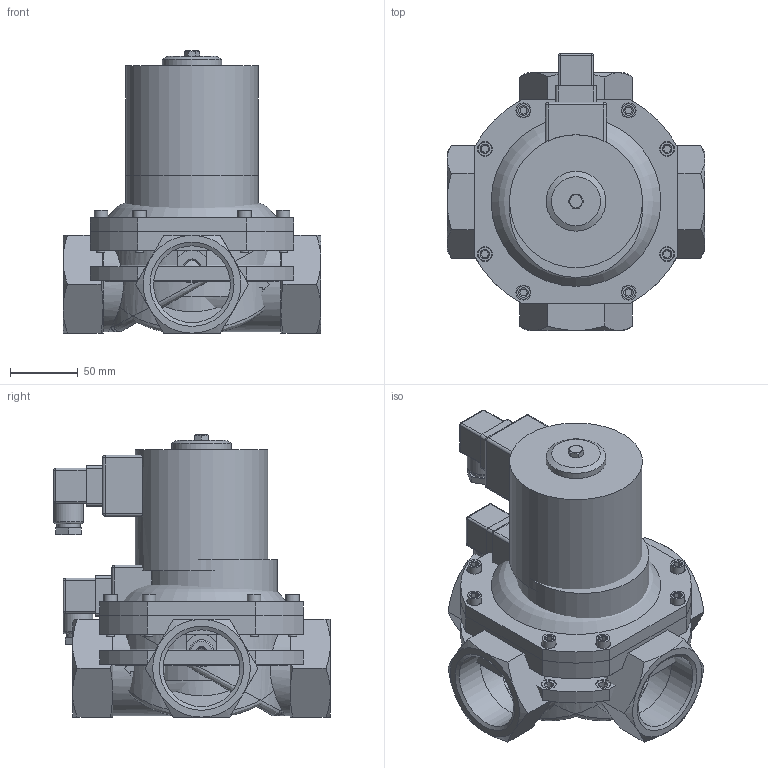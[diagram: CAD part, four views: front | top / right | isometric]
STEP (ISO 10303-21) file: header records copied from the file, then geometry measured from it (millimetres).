
FILE_DESCRIPTION( ( 'Unknown' ), '1' );
FILE_NAME( 'D:/Wyroby/Widoki gabarytowe/Zawory ZEF/ZEF_50/ZEF_50.stp', 'Unknown', ( 'Unknown' ), ( 'Unknown' ), 'XStep 1.0', 'Unknown', ' ' );
FILE_SCHEMA( ( 'CONFIG_CONTROL_DESIGN' ) );
Length unit declared in the file: millimetre
Products named in the file (45): Assem1; Wa_044_01_05; Wb_126_01_01; Wa_157_01_00; Wa_053_01_04; Wa_053_01_05; Wa_031_01_05_001got; Wa_044_01_05bez_ko³ka; Ko³ek6x45; Wa_031_01_04_002got; Wa_031_01_04_001; Wb_126_01_01_002; Wb_126_01_01_001; Wa_044_01_04_002; Wa_126_01_03_003; Wa_086_01_00_002; Wa_065_01_02_004; Wa_044_01_04_003; Wa_044_01_02_004; Wa_014_01_00_003彡i從i黎y27,5; Oring12x2彡i從i黎y1,6; Wa_031_01_00_007; Wa_031_01_00_008; Wa_126_01_03_002zaci從i黎a; Wa_157_01_01; Wa_157_01_02; Wa_031_01_00_005; Œ-006m6x12szeœc.; Wa_031_01_00_012; Wa_031_01_00_010; Œ-028ImbusM6x25; Wa_125_01_00_002; Wa_031_01_00_003; Wb_125_01_00_001zciœnieta22,25; Cewka_40-65
Bounding box: 190 x 204 x 208 mm (x, y, z)
Volume: 3838605.2 mm3; surface area: 1213199.2 mm2
Topology: 142 solids, 142 shells, 2280 faces, 4899 edges, 3130 vertices
Faces by surface type: plane 1088, cylinder 679, cone 379, torus 91, sphere 22, bspline 21
Full cylindrical faces by diameter (mm): 2 x10, 2.5 x30, 3 x3, 3.5 x3, 4 x7, 4.2 x9, 4.917 x29, 5 x4, 6 x37, 6.2 x13, 6.5 x3, 6.6 x24, 8 x9, 10 x39, 10.917 x4, 11 x24, 11.445 x6, 12 x17, 12.2 x8, 13 x6, 13.8 x6, 14 x4, 16 x4, 17 x2, 18 x12, 18.5 x4, 18.7 x4, 22 x2, 24 x4, 24.5 x5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
Entity records: 22636 total; most frequent: CARTESIAN_POINT 6918, DIRECTION 2945, ORIENTED_EDGE 2264, AXIS2_PLACEMENT_3D 1274, EDGE_CURVE 1132, EDGE_LOOP 1130, VERTEX_POINT 875, FACE_OUTER_BOUND 861
